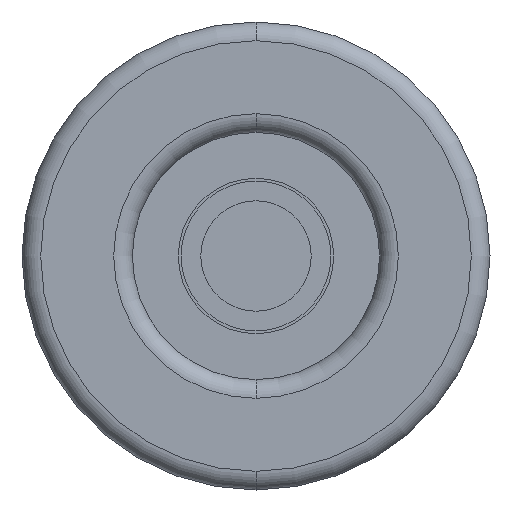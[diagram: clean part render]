
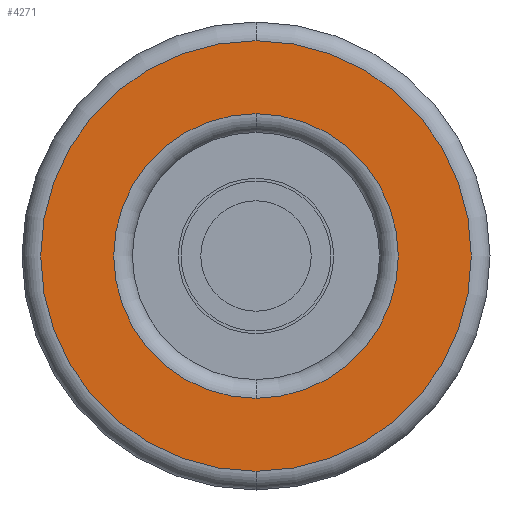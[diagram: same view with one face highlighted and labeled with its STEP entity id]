
A CAD part, front view. The second image highlights one B-rep face of the part: STEP entity #4271.
In plain terms, the highlighted planar face has unit normal (0, -1, 0).
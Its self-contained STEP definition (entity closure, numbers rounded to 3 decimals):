
#168 = DIRECTION ( 'NONE',  ( 0., 0., -1. ) ) ;
#188 = PLANE ( 'NONE',  #2662 ) ;
#289 = CARTESIAN_POINT ( 'NONE',  ( 0., 0., 0. ) ) ;
#335 = AXIS2_PLACEMENT_3D ( 'NONE', #726, #1754, #6091 ) ;
#380 = EDGE_LOOP ( 'NONE', ( #2388, #6264 ) ) ;
#437 = CARTESIAN_POINT ( 'NONE',  ( 0., 0., 0. ) ) ;
#485 = EDGE_CURVE ( 'NONE', #5215, #3739, #3701, .T. ) ;
#726 = CARTESIAN_POINT ( 'NONE',  ( 0., 0., 0. ) ) ;
#846 = CARTESIAN_POINT ( 'NONE',  ( 0., 0., 0. ) ) ;
#1254 = DIRECTION ( 'NONE',  ( 0., -1., 0. ) ) ;
#1271 = CARTESIAN_POINT ( 'NONE',  ( 0., 0., 11.5 ) ) ;
#1350 = VERTEX_POINT ( 'NONE', #2899 ) ;
#1373 = DIRECTION ( 'NONE',  ( 0., 1., 0. ) ) ;
#1638 = AXIS2_PLACEMENT_3D ( 'NONE', #846, #1373, #5092 ) ;
#1754 = DIRECTION ( 'NONE',  ( 0., -1., 0. ) ) ;
#1770 = CARTESIAN_POINT ( 'NONE',  ( -6.6, 0., 0. ) ) ;
#2201 = FACE_OUTER_BOUND ( 'NONE', #3975, .T. ) ;
#2388 = ORIENTED_EDGE ( 'NONE', *, *, #3574, .T. ) ;
#2524 = DIRECTION ( 'NONE',  ( 0., 0., -1. ) ) ;
#2594 = EDGE_CURVE ( 'NONE', #1350, #3100, #6395, .T. ) ;
#2662 = AXIS2_PLACEMENT_3D ( 'NONE', #1770, #1254, #168 ) ;
#2899 = CARTESIAN_POINT ( 'NONE',  ( 0., 0., 7.6 ) ) ;
#2937 = CIRCLE ( 'NONE', #5110, 7.6 ) ;
#2953 = DIRECTION ( 'NONE',  ( 0., -1., 0. ) ) ;
#2974 = CARTESIAN_POINT ( 'NONE',  ( 0., 0., -7.6 ) ) ;
#3100 = VERTEX_POINT ( 'NONE', #2974 ) ;
#3450 = EDGE_CURVE ( 'NONE', #3739, #5215, #5968, .T. ) ;
#3542 = CARTESIAN_POINT ( 'NONE',  ( 0., 0., -11.5 ) ) ;
#3574 = EDGE_CURVE ( 'NONE', #3100, #1350, #2937, .T. ) ;
#3701 = CIRCLE ( 'NONE', #4215, 11.5 ) ;
#3739 = VERTEX_POINT ( 'NONE', #3542 ) ;
#3975 = EDGE_LOOP ( 'NONE', ( #5627, #4865 ) ) ;
#4049 = DIRECTION ( 'NONE',  ( 0., 0., -1. ) ) ;
#4099 = FACE_BOUND ( 'NONE', #380, .T. ) ;
#4215 = AXIS2_PLACEMENT_3D ( 'NONE', #289, #2953, #4049 ) ;
#4271 = ADVANCED_FACE ( 'NONE', ( #4099, #2201 ), #188, .T. ) ;
#4865 = ORIENTED_EDGE ( 'NONE', *, *, #485, .T. ) ;
#5092 = DIRECTION ( 'NONE',  ( 0., 0., -1. ) ) ;
#5110 = AXIS2_PLACEMENT_3D ( 'NONE', #437, #5201, #2524 ) ;
#5201 = DIRECTION ( 'NONE',  ( 0., 1., 0. ) ) ;
#5215 = VERTEX_POINT ( 'NONE', #1271 ) ;
#5627 = ORIENTED_EDGE ( 'NONE', *, *, #3450, .T. ) ;
#5968 = CIRCLE ( 'NONE', #335, 11.5 ) ;
#6091 = DIRECTION ( 'NONE',  ( 0., 0., -1. ) ) ;
#6264 = ORIENTED_EDGE ( 'NONE', *, *, #2594, .T. ) ;
#6395 = CIRCLE ( 'NONE', #1638, 7.6 ) ;
